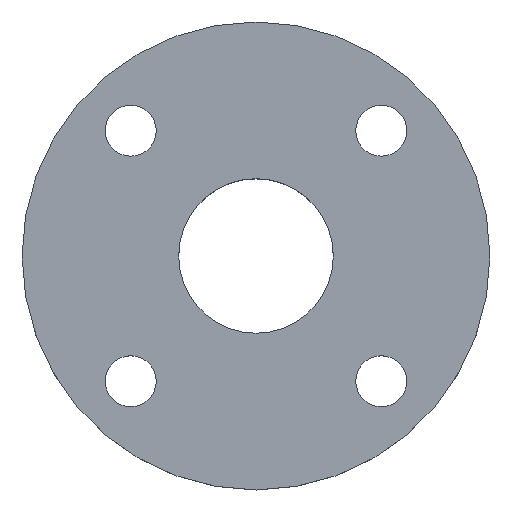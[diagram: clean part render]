
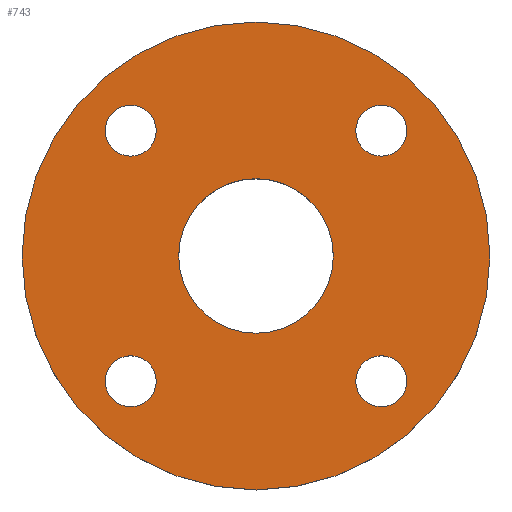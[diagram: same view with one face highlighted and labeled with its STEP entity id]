
A CAD part, top view. The second image highlights one B-rep face of the part: STEP entity #743.
In plain terms, the highlighted planar face has unit normal (0, 0, 1).
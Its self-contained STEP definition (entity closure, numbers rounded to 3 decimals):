
#1 = DIRECTION ( 'NONE',  ( 1., 0., 0. ) ) ;
#4 = DIRECTION ( 'NONE',  ( 0., 0., 1. ) ) ;
#5 = CARTESIAN_POINT ( 'NONE',  ( 0., 0., 0. ) ) ;
#6 = PLANE ( 'NONE',  #22 ) ;
#8 = FACE_OUTER_BOUND ( 'NONE', #633, .T. ) ;
#9 = CIRCLE ( 'NONE', #10, 9. ) ;
#10 = AXIS2_PLACEMENT_3D ( 'NONE', #557, #556, #554 ) ;
#11 = FACE_BOUND ( 'NONE', #621, .T. ) ;
#12 = FACE_BOUND ( 'NONE', #625, .T. ) ;
#15 = FACE_BOUND ( 'NONE', #589, .T. ) ;
#16 = FACE_BOUND ( 'NONE', #581, .T. ) ;
#17 = FACE_BOUND ( 'NONE', #599, .T. ) ;
#20 = EDGE_CURVE ( 'NONE', #616, #696, #9, .T. ) ;
#22 = AXIS2_PLACEMENT_3D ( 'NONE', #5, #4, #1 ) ;
#33 = CARTESIAN_POINT ( 'NONE',  ( 35.194, 44.194, 0. ) ) ;
#50 = CARTESIAN_POINT ( 'NONE',  ( -53.194, 44.194, 0. ) ) ;
#53 = CARTESIAN_POINT ( 'NONE',  ( -35.194, -44.194, 0. ) ) ;
#54 = CARTESIAN_POINT ( 'NONE',  ( -27.25, 0., 0. ) ) ;
#68 = CARTESIAN_POINT ( 'NONE',  ( 53.194, -44.194, 0. ) ) ;
#70 = CARTESIAN_POINT ( 'NONE',  ( 82.5, 0., 0. ) ) ;
#80 = DIRECTION ( 'NONE',  ( 1., 0., 0. ) ) ;
#86 = CIRCLE ( 'NONE', #297, 27.25 ) ;
#87 = CARTESIAN_POINT ( 'NONE',  ( 0., 0., 0. ) ) ;
#88 = DIRECTION ( 'NONE',  ( 0., 0., 1. ) ) ;
#95 = CARTESIAN_POINT ( 'NONE',  ( -53.194, -44.194, 0. ) ) ;
#96 = CARTESIAN_POINT ( 'NONE',  ( 27.25, 0., 0. ) ) ;
#100 = EDGE_CURVE ( 'NONE', #692, #640, #86, .T. ) ;
#102 = CARTESIAN_POINT ( 'NONE',  ( -82.5, 0., 0. ) ) ;
#103 = CARTESIAN_POINT ( 'NONE',  ( -35.194, 44.194, 0. ) ) ;
#110 = DIRECTION ( 'NONE',  ( -1., 0., 0. ) ) ;
#111 = DIRECTION ( 'NONE',  ( 0., 0., -1. ) ) ;
#112 = CARTESIAN_POINT ( 'NONE',  ( 44.194, 44.194, 0. ) ) ;
#127 = DIRECTION ( 'NONE',  ( -1., 0., 0. ) ) ;
#128 = DIRECTION ( 'NONE',  ( 0., 0., -1. ) ) ;
#129 = CARTESIAN_POINT ( 'NONE',  ( -44.194, 44.194, 0. ) ) ;
#140 = CIRCLE ( 'NONE', #141, 9. ) ;
#141 = AXIS2_PLACEMENT_3D ( 'NONE', #486, #485, #483 ) ;
#200 = EDGE_CURVE ( 'NONE', #662, #304, #140, .T. ) ;
#203 = CIRCLE ( 'NONE', #207, 9. ) ;
#207 = AXIS2_PLACEMENT_3D ( 'NONE', #374, #373, #372 ) ;
#210 = CIRCLE ( 'NONE', #222, 9. ) ;
#222 = AXIS2_PLACEMENT_3D ( 'NONE', #371, #369, #366 ) ;
#227 = CIRCLE ( 'NONE', #233, 9. ) ;
#233 = AXIS2_PLACEMENT_3D ( 'NONE', #321, #313, #312 ) ;
#247 = CIRCLE ( 'NONE', #249, 27.25 ) ;
#249 = AXIS2_PLACEMENT_3D ( 'NONE', #292, #290, #289 ) ;
#261 = CIRCLE ( 'NONE', #264, 9. ) ;
#262 = DIRECTION ( 'NONE',  ( 1., 0., 0. ) ) ;
#263 = DIRECTION ( 'NONE',  ( 0., 0., 1. ) ) ;
#264 = AXIS2_PLACEMENT_3D ( 'NONE', #271, #269, #268 ) ;
#265 = CARTESIAN_POINT ( 'NONE',  ( 0., 0., 0. ) ) ;
#266 = CIRCLE ( 'NONE', #267, 82.5 ) ;
#267 = AXIS2_PLACEMENT_3D ( 'NONE', #265, #263, #262 ) ;
#268 = DIRECTION ( 'NONE',  ( -1., 0., 0. ) ) ;
#269 = DIRECTION ( 'NONE',  ( 0., 0., -1. ) ) ;
#271 = CARTESIAN_POINT ( 'NONE',  ( -44.194, -44.194, 0. ) ) ;
#289 = DIRECTION ( 'NONE',  ( -1., 0., 0. ) ) ;
#290 = DIRECTION ( 'NONE',  ( 0., 0., -1. ) ) ;
#292 = CARTESIAN_POINT ( 'NONE',  ( 0., 0., 0. ) ) ;
#297 = AXIS2_PLACEMENT_3D ( 'NONE', #521, #517, #516 ) ;
#304 = VERTEX_POINT ( 'NONE', #404 ) ;
#309 = VERTEX_POINT ( 'NONE', #392 ) ;
#312 = DIRECTION ( 'NONE',  ( -1., 0., 0. ) ) ;
#313 = DIRECTION ( 'NONE',  ( 0., 0., -1. ) ) ;
#321 = CARTESIAN_POINT ( 'NONE',  ( 44.194, 44.194, 0. ) ) ;
#342 = EDGE_CURVE ( 'NONE', #304, #662, #203, .T. ) ;
#343 = EDGE_CURVE ( 'NONE', #693, #639, #210, .T. ) ;
#359 = EDGE_CURVE ( 'NONE', #309, #728, #227, .T. ) ;
#362 = CIRCLE ( 'NONE', #363, 9. ) ;
#363 = AXIS2_PLACEMENT_3D ( 'NONE', #129, #128, #127 ) ;
#366 = DIRECTION ( 'NONE',  ( -1., 0., 0. ) ) ;
#369 = DIRECTION ( 'NONE',  ( 0., 0., -1. ) ) ;
#371 = CARTESIAN_POINT ( 'NONE',  ( -44.194, -44.194, 0. ) ) ;
#372 = DIRECTION ( 'NONE',  ( -1., 0., 0. ) ) ;
#373 = DIRECTION ( 'NONE',  ( 0., 0., -1. ) ) ;
#374 = CARTESIAN_POINT ( 'NONE',  ( 44.194, -44.194, 0. ) ) ;
#376 = CIRCLE ( 'NONE', #384, 9. ) ;
#384 = AXIS2_PLACEMENT_3D ( 'NONE', #112, #111, #110 ) ;
#392 = CARTESIAN_POINT ( 'NONE',  ( 53.194, 44.194, 0. ) ) ;
#397 = EDGE_CURVE ( 'NONE', #640, #692, #247, .T. ) ;
#402 = AXIS2_PLACEMENT_3D ( 'NONE', #87, #88, #80 ) ;
#404 = CARTESIAN_POINT ( 'NONE',  ( 35.194, -44.194, 0. ) ) ;
#406 = CIRCLE ( 'NONE', #402, 82.5 ) ;
#418 = EDGE_CURVE ( 'NONE', #639, #693, #261, .T. ) ;
#419 = EDGE_CURVE ( 'NONE', #619, #660, #266, .T. ) ;
#483 = DIRECTION ( 'NONE',  ( -1., 0., 0. ) ) ;
#485 = DIRECTION ( 'NONE',  ( 0., 0., -1. ) ) ;
#486 = CARTESIAN_POINT ( 'NONE',  ( 44.194, -44.194, 0. ) ) ;
#494 = EDGE_CURVE ( 'NONE', #696, #616, #362, .T. ) ;
#516 = DIRECTION ( 'NONE',  ( -1., 0., 0. ) ) ;
#517 = DIRECTION ( 'NONE',  ( 0., 0., -1. ) ) ;
#520 = EDGE_CURVE ( 'NONE', #728, #309, #376, .T. ) ;
#521 = CARTESIAN_POINT ( 'NONE',  ( 0., 0., 0. ) ) ;
#554 = DIRECTION ( 'NONE',  ( -1., 0., 0. ) ) ;
#556 = DIRECTION ( 'NONE',  ( 0., 0., -1. ) ) ;
#557 = CARTESIAN_POINT ( 'NONE',  ( -44.194, 44.194, 0. ) ) ;
#581 = EDGE_LOOP ( 'NONE', ( #593, #592 ) ) ;
#582 = ORIENTED_EDGE ( 'NONE', *, *, #419, .T. ) ;
#583 = ORIENTED_EDGE ( 'NONE', *, *, #652, .T. ) ;
#584 = ORIENTED_EDGE ( 'NONE', *, *, #397, .T. ) ;
#585 = ORIENTED_EDGE ( 'NONE', *, *, #100, .T. ) ;
#586 = ORIENTED_EDGE ( 'NONE', *, *, #520, .T. ) ;
#587 = ORIENTED_EDGE ( 'NONE', *, *, #359, .T. ) ;
#588 = ORIENTED_EDGE ( 'NONE', *, *, #494, .T. ) ;
#589 = EDGE_LOOP ( 'NONE', ( #590, #588 ) ) ;
#590 = ORIENTED_EDGE ( 'NONE', *, *, #20, .T. ) ;
#592 = ORIENTED_EDGE ( 'NONE', *, *, #418, .T. ) ;
#593 = ORIENTED_EDGE ( 'NONE', *, *, #343, .T. ) ;
#594 = ORIENTED_EDGE ( 'NONE', *, *, #342, .T. ) ;
#595 = ORIENTED_EDGE ( 'NONE', *, *, #200, .T. ) ;
#599 = EDGE_LOOP ( 'NONE', ( #595, #594 ) ) ;
#616 = VERTEX_POINT ( 'NONE', #103 ) ;
#619 = VERTEX_POINT ( 'NONE', #102 ) ;
#621 = EDGE_LOOP ( 'NONE', ( #585, #584 ) ) ;
#625 = EDGE_LOOP ( 'NONE', ( #587, #586 ) ) ;
#633 = EDGE_LOOP ( 'NONE', ( #583, #582 ) ) ;
#639 = VERTEX_POINT ( 'NONE', #95 ) ;
#640 = VERTEX_POINT ( 'NONE', #96 ) ;
#652 = EDGE_CURVE ( 'NONE', #660, #619, #406, .T. ) ;
#660 = VERTEX_POINT ( 'NONE', #70 ) ;
#662 = VERTEX_POINT ( 'NONE', #68 ) ;
#692 = VERTEX_POINT ( 'NONE', #54 ) ;
#693 = VERTEX_POINT ( 'NONE', #53 ) ;
#696 = VERTEX_POINT ( 'NONE', #50 ) ;
#728 = VERTEX_POINT ( 'NONE', #33 ) ;
#743 = ADVANCED_FACE ( 'NONE', ( #17, #16, #15, #12, #11, #8 ), #6, .T. ) ;
